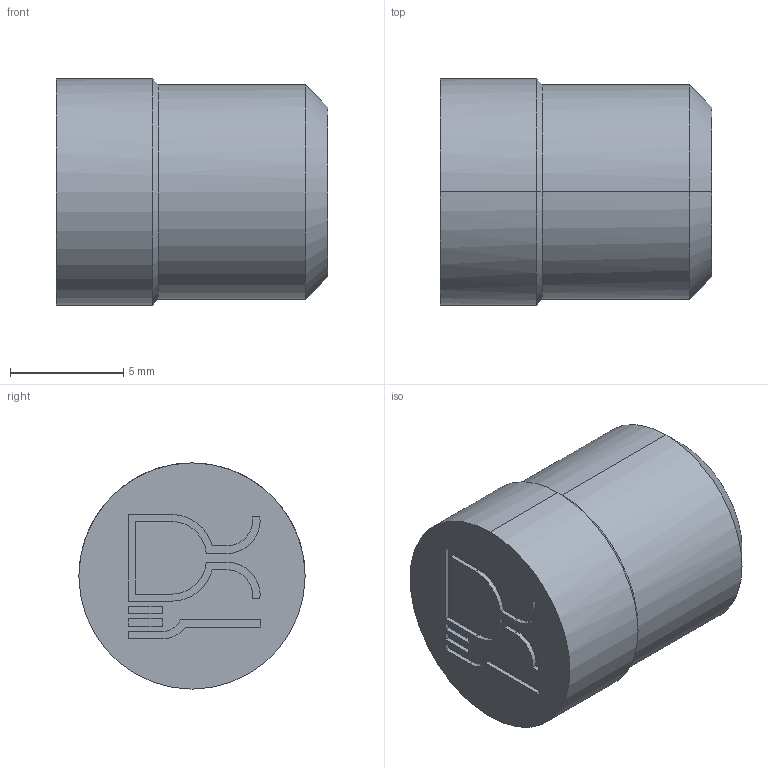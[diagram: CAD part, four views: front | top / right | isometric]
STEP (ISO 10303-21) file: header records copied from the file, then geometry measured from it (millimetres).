
FILE_DESCRIPTION(('CATIA V5 STEP Exchange'),'2;1');
FILE_NAME('C:\Users\Utente\Desktop\IO LAVORO\3D X SITO CF\X SITO\PLASTICA\CFMR\MA10.stp','2021-03-26T14:28:34+00:00',('none'),('none'),'CATIA Version 5 Release 20 GA (IN-10)','CATIA V5 STEP AP203','none');
FILE_SCHEMA(('CONFIG_CONTROL_DESIGN'));
Length unit declared in the file: millimetre
Products named in the file (1): MA10
Bounding box: 12 x 10 x 10 mm (x, y, z)
Volume: 811.4 mm3; surface area: 575.5 mm2
Topology: 1 solids, 1 shells, 56 faces, 156 edges, 105 vertices
Faces by surface type: plane 32, cylinder 16, cone 8
Entity records: 1862 total; most frequent: CARTESIAN_POINT 402, ORIENTED_EDGE 308, DIRECTION 256, EDGE_CURVE 154, VERTEX_POINT 105, VECTOR 102, LINE 102, AXIS2_PLACEMENT_3D 99
